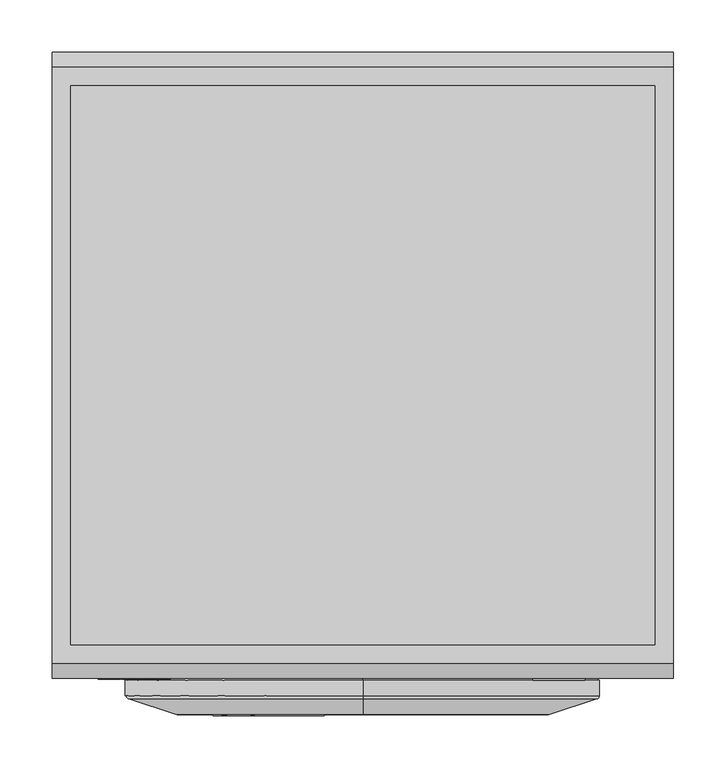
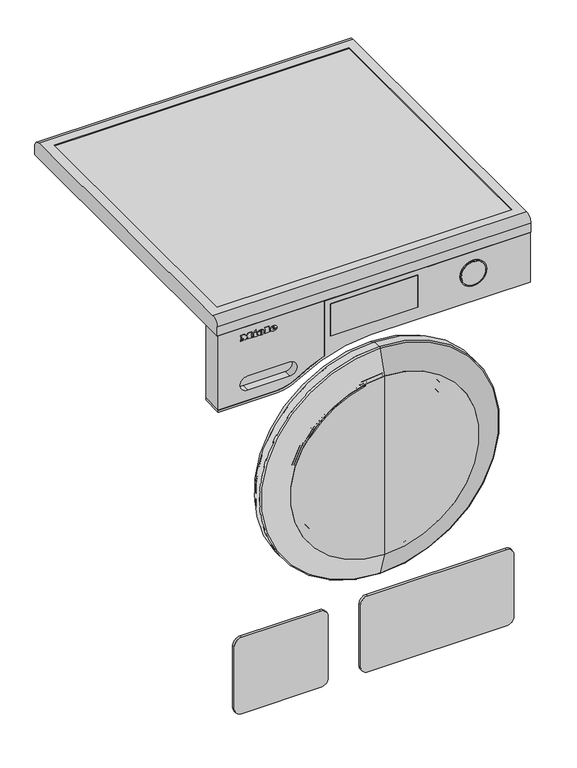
"""IFC4 building model written with IfcOpenShell, lengths in millimetres: proxy geometry, 11297810_ROK_WCR860WPS_LW : 11CR8600_ROK_11297810_WCR860WPS_LW."""

from ifc_helpers import new_model, si_unit, point, frame, frame_2d, origin, place, context, project, spatial, polyline, circle_curve, ellipse_curve, trimmed, segment, composite_curve, outline, extrude, source, transform, mapped, element, save
from ifc_brep_helpers import plane_surface, cylinder_surface, revolved_surface, extruded_surface, advanced_brep


def specialty_equipment_65e13c43(model_context):
    return source(origin(), model_context, "Body", "SolidModel", [
        advanced_brep(
        [(-192.212, -601.0, 794.7018), (-192.212, -601.0, 795.8532), (-184.5854, -601.0, 795.8532), (-197.855, -601.0, 795.8532), (-194.72, -601.0, 792.0), (-184.7792, -601.0, 794.7018), (-188.222, -601.0, 794.7018), (-190.9352, -601.0, 793.425), (-192.212, -601.0, 797.3124), (-192.212, -601.0, 798.555), (-190.2626, -601.0, 798.555), (-190.2626, -601.0, 797.3124), (-192.212, -600.0, 794.7018), (-190.9352, -600.0, 793.425), (-188.222, -600.0, 794.7018), (-184.7792, -600.0, 794.7018), (-194.72, -600.0, 792.0), (-197.855, -600.0, 795.8532), (-184.5854, -600.0, 795.8532), (-192.212, -600.0, 795.8532), (-192.212, -600.0, 797.3124), (-190.2626, -600.0, 797.3124), (-190.2626, -600.0, 798.555), (-192.212, -600.0, 798.555)],
        [
            (0, 1),
            (1, 2),
            (2, 3, ellipse_curve(frame((-191.2202, -601.0, 795.8532), z_axis=(0.0, -1.0, 0.0), x_axis=(-1.0, 0.0, 0.0)), 6.6348, 5.4834)),
            (3, 4, circle_curve(frame((-193.4431378, -601.0, 796.2408), z_axis=(0.0, -1.0, 0.0), x_axis=(0.0, 0.0, -1.0)), 4.4288556)),
            (4, 5, circle_curve(frame((-191.3530192, -601.0, 799.2504), z_axis=(0.0, -1.0, 0.0), x_axis=(0.0, 0.0, -1.0)), 7.9940516)),
            (5, 6),
            (6, 7, circle_curve(frame((-190.3779412, -601.0, 795.762), z_axis=(0.0, 1.0, 0.0), x_axis=(0.0, 0.0, -1.0)), 2.4025208)),
            (7, 0, circle_curve(frame((-190.9352, -601.0, 794.7018), z_axis=(0.0, 1.0, 0.0), x_axis=(0.0, 0.0, -1.0)), 1.2768)),
            (8, 9),
            (9, 10, circle_curve(frame((-191.2373, -601.0, 798.555), z_axis=(0.0, 1.0, 0.0), x_axis=(0.0, 0.0, -1.0)), 0.9747)),
            (10, 11),
            (11, 8),
            (12, 13, circle_curve(frame((-190.9352, -600.0, 794.7018), z_axis=(0.0, -1.0, 0.0), x_axis=(0.0, 0.0, -1.0)), 1.2768)),
            (13, 14, circle_curve(frame((-190.3779412, -600.0, 795.762), z_axis=(0.0, -1.0, 0.0), x_axis=(0.0, 0.0, -1.0)), 2.4025208)),
            (14, 15),
            (15, 16, circle_curve(frame((-191.3530192, -600.0, 799.2504), z_axis=(0.0, 1.0, 0.0), x_axis=(0.0, 0.0, -1.0)), 7.9940516)),
            (16, 17, circle_curve(frame((-193.4431378, -600.0, 796.2408), z_axis=(0.0, 1.0, 0.0), x_axis=(0.0, 0.0, -1.0)), 4.4288556)),
            (17, 18, ellipse_curve(frame((-191.2202, -600.0, 795.8532), z_axis=(0.0, 1.0, 0.0), x_axis=(-1.0, 0.0, 0.0)), 6.6348, 5.4834)),
            (18, 19),
            (19, 12),
            (20, 21),
            (21, 22),
            (22, 23, circle_curve(frame((-191.2373, -600.0, 798.555), z_axis=(0.0, -1.0, 0.0), x_axis=(0.0, 0.0, -1.0)), 0.9747)),
            (23, 20),
            (0, 12),
            (19, 1),
            (18, 2),
            (5, 15),
            (14, 6),
            (17, 3),
            (13, 7),
            (16, 4),
            (8, 20),
            (23, 9),
            (22, 10),
            (21, 11),
        ],
        [
            plane_surface(frame((-192.212, -601.0, 795.8532), z_axis=(0.0, -1.0, 0.0), x_axis=(0.0, 0.0, 1.0))),
            plane_surface(frame((-192.212, -600.0, 795.8532), z_axis=(0.0, 1.0, 0.0), x_axis=(0.0, 0.0, -1.0))),
            plane_surface(frame((-192.212, -601.0, 794.7018), z_axis=(1.0, 0.0, 0.0), x_axis=(0.0, 1.0, 0.0))),
            plane_surface(frame((-192.212, -601.0, 795.8532), z_axis=(0.0, 0.0, -1.0), x_axis=(0.0, 1.0, 0.0))),
            plane_surface(frame((-184.7792, -601.0, 794.7018), z_axis=(0.0, 0.0, 1.0), x_axis=(0.0, 1.0, 0.0))),
            extruded_surface(trimmed(ellipse_curve(frame((-191.2202, -599.0, 795.8532), z_axis=(0.0, -1.0, 0.0), x_axis=(-1.0, 0.0, 0.0)), 6.6348, 5.4834), [point((-184.5854, -599.0, 795.8532))], [point((-197.855, -599.0, 795.8532))], True, "CARTESIAN"), (0.0, -1.0, 0.0), 1.0),
            revolved_surface(polyline([(-190.3779412, -600.0, 793.3594791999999), (-190.3779412, -601.0, 793.3594791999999)]), (-190.3779412, -600.0, 795.762), (0.0, 1.0, 0.0)),
            revolved_surface(polyline([(-190.9352, -600.0, 793.4250000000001), (-190.9352, -601.0, 793.4250000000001)]), (-190.9352, -600.0, 794.7018), (0.0, 1.0, 0.0)),
            cylinder_surface(frame((-193.4431378, -600.0, 796.2408), z_axis=(0.0, -1.0, 0.0), x_axis=(0.0, 0.0, -1.0)), 4.4288556),
            cylinder_surface(frame((-191.3530192, -600.0, 799.2504), z_axis=(0.0, -1.0, 0.0), x_axis=(0.0, 0.0, -1.0)), 7.9940516),
            plane_surface(frame((-192.212, -601.0, 797.3124), z_axis=(1.0, 0.0, 0.0), x_axis=(0.0, 1.0, 0.0))),
            revolved_surface(polyline([(-191.2373, -600.0, 797.5803), (-191.2373, -601.0, 797.5803)]), (-191.2373, -600.0, 798.555), (0.0, 1.0, 0.0)),
            plane_surface(frame((-190.2626, -601.0, 798.555), z_axis=(-1.0, 0.0, 0.0), x_axis=(0.0, 1.0, 0.0))),
            plane_surface(frame((-190.2626, -601.0, 797.3124), z_axis=(0.0, 0.0, 1.0), x_axis=(0.0, 1.0, 0.0))),
        ],
        [
            (0, [[1, 2, 3, 4, 5, 6, 7, 8], [9, 10, 11, 12]]),
            (1, [[13, 14, 15, 16, 17, 18, 19, 20], [21, 22, 23, 24]]),
            (2, [[-1, 25, -20, 26]]),
            (3, [[-2, -26, -19, 27]]),
            (4, [[-6, 28, -15, 29]]),
            (5, [[-3, -27, -18, 30]]),
            (6, [[-7, -29, -14, 31]]),
            (7, [[-8, -31, -13, -25]]),
            (8, [[-4, -30, -17, 32]]),
            (9, [[-5, -32, -16, -28]]),
            (10, [[-9, 33, -24, 34]]),
            (11, [[-10, -34, -23, 35]]),
            (12, [[-11, -35, -22, 36]]),
            (13, [[-12, -36, -21, -33]]),
        ],
    ),
        advanced_brep(
        [(-216.0038, -601.0, 794.7018), (-216.0038, -601.0, 795.8532), (-208.3772, -601.0, 795.8532), (-221.6468, -601.0, 795.8532), (-218.5118, -601.0, 792.0), (-208.571, -601.0, 794.7018), (-212.0138, -601.0, 794.7018), (-214.727, -601.0, 793.425), (-216.0038, -601.0, 797.3124), (-216.0038, -601.0, 798.555), (-214.0544, -601.0, 798.555), (-214.0544, -601.0, 797.3124), (-216.0038, -600.0, 794.7018), (-214.727, -600.0, 793.425), (-212.0138, -600.0, 794.7018), (-208.571, -600.0, 794.7018), (-218.5118, -600.0, 792.0), (-221.6468, -600.0, 795.8532), (-208.3772, -600.0, 795.8532), (-216.0038, -600.0, 795.8532), (-216.0038, -600.0, 797.3124), (-214.0544, -600.0, 797.3124), (-214.0544, -600.0, 798.555), (-216.0038, -600.0, 798.555)],
        [
            (0, 1),
            (1, 2),
            (2, 3, ellipse_curve(frame((-215.012, -601.0, 795.8532), z_axis=(0.0, -1.0, 0.0), x_axis=(-1.0, 0.0, 0.0)), 6.6348, 5.4834)),
            (3, 4, circle_curve(frame((-217.2349378, -601.0, 796.2408), z_axis=(0.0, -1.0, 0.0), x_axis=(0.0, 0.0, -1.0)), 4.4288556)),
            (4, 5, circle_curve(frame((-215.1448192, -601.0, 799.2504), z_axis=(0.0, -1.0, 0.0), x_axis=(0.0, 0.0, -1.0)), 7.9940516)),
            (5, 6),
            (6, 7, circle_curve(frame((-214.1697412, -601.0, 795.762), z_axis=(0.0, 1.0, 0.0), x_axis=(0.0, 0.0, -1.0)), 2.4025208)),
            (7, 0, circle_curve(frame((-214.727, -601.0, 794.7018), z_axis=(0.0, 1.0, 0.0), x_axis=(0.0, 0.0, -1.0)), 1.2768)),
            (8, 9),
            (9, 10, circle_curve(frame((-215.0291, -601.0, 798.555), z_axis=(0.0, 1.0, 0.0), x_axis=(0.0, 0.0, -1.0)), 0.9747)),
            (10, 11),
            (11, 8),
            (12, 13, circle_curve(frame((-214.727, -600.0, 794.7018), z_axis=(0.0, -1.0, 0.0), x_axis=(0.0, 0.0, -1.0)), 1.2768)),
            (13, 14, circle_curve(frame((-214.1697412, -600.0, 795.762), z_axis=(0.0, -1.0, 0.0), x_axis=(0.0, 0.0, -1.0)), 2.4025208)),
            (14, 15),
            (15, 16, circle_curve(frame((-215.1448192, -600.0, 799.2504), z_axis=(0.0, 1.0, 0.0), x_axis=(0.0, 0.0, -1.0)), 7.9940516)),
            (16, 17, circle_curve(frame((-217.2349378, -600.0, 796.2408), z_axis=(0.0, 1.0, 0.0), x_axis=(0.0, 0.0, -1.0)), 4.4288556)),
            (17, 18, ellipse_curve(frame((-215.012, -600.0, 795.8532), z_axis=(0.0, 1.0, 0.0), x_axis=(-1.0, 0.0, 0.0)), 6.6348, 5.4834)),
            (18, 19),
            (19, 12),
            (20, 21),
            (21, 22),
            (22, 23, circle_curve(frame((-215.0291, -600.0, 798.555), z_axis=(0.0, -1.0, 0.0), x_axis=(0.0, 0.0, -1.0)), 0.9747)),
            (23, 20),
            (0, 12),
            (19, 1),
            (18, 2),
            (5, 15),
            (14, 6),
            (17, 3),
            (13, 7),
            (16, 4),
            (8, 20),
            (23, 9),
            (22, 10),
            (21, 11),
        ],
        [
            plane_surface(frame((-216.0038, -601.0, 795.8532), z_axis=(0.0, -1.0, 0.0), x_axis=(0.0, 0.0, 1.0))),
            plane_surface(frame((-216.0038, -600.0, 795.8532), z_axis=(0.0, 1.0, 0.0), x_axis=(0.0, 0.0, -1.0))),
            plane_surface(frame((-216.0038, -601.0, 794.7018), z_axis=(1.0, 0.0, 0.0), x_axis=(0.0, 1.0, 0.0))),
            plane_surface(frame((-216.0038, -601.0, 795.8532), z_axis=(0.0, 0.0, -1.0), x_axis=(0.0, 1.0, 0.0))),
            plane_surface(frame((-208.571, -601.0, 794.7018), z_axis=(0.0, 0.0, 1.0), x_axis=(0.0, 1.0, 0.0))),
            extruded_surface(trimmed(ellipse_curve(frame((-215.012, -599.0, 795.8532), z_axis=(0.0, -1.0, 0.0), x_axis=(-1.0, 0.0, 0.0)), 6.6348, 5.4834), [point((-208.3772, -599.0, 795.8532))], [point((-221.6468, -599.0, 795.8532))], True, "CARTESIAN"), (0.0, -1.0, 0.0), 1.0),
            revolved_surface(polyline([(-214.1697412, -600.0, 793.3594791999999), (-214.1697412, -601.0, 793.3594791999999)]), (-214.1697412, -600.0, 795.762), (0.0, 1.0, 0.0)),
            revolved_surface(polyline([(-214.727, -600.0, 793.4250000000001), (-214.727, -601.0, 793.4250000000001)]), (-214.727, -600.0, 794.7018), (0.0, 1.0, 0.0)),
            cylinder_surface(frame((-217.2349378, -600.0, 796.2408), z_axis=(0.0, -1.0, 0.0), x_axis=(0.0, 0.0, -1.0)), 4.4288556),
            cylinder_surface(frame((-215.1448192, -600.0, 799.2504), z_axis=(0.0, -1.0, 0.0), x_axis=(0.0, 0.0, -1.0)), 7.9940516),
            plane_surface(frame((-216.0038, -601.0, 797.3124), z_axis=(1.0, 0.0, 0.0), x_axis=(0.0, 1.0, 0.0))),
            revolved_surface(polyline([(-215.0291, -600.0, 797.5803), (-215.0291, -601.0, 797.5803)]), (-215.0291, -600.0, 798.555), (0.0, 1.0, 0.0)),
            plane_surface(frame((-214.0544, -601.0, 798.555), z_axis=(-1.0, 0.0, 0.0), x_axis=(0.0, 1.0, 0.0))),
            plane_surface(frame((-214.0544, -601.0, 797.3124), z_axis=(0.0, 0.0, 1.0), x_axis=(0.0, 1.0, 0.0))),
        ],
        [
            (0, [[1, 2, 3, 4, 5, 6, 7, 8], [9, 10, 11, 12]]),
            (1, [[13, 14, 15, 16, 17, 18, 19, 20], [21, 22, 23, 24]]),
            (2, [[-1, 25, -20, 26]]),
            (3, [[-2, -26, -19, 27]]),
            (4, [[-6, 28, -15, 29]]),
            (5, [[-3, -27, -18, 30]]),
            (6, [[-7, -29, -14, 31]]),
            (7, [[-8, -31, -13, -25]]),
            (8, [[-4, -30, -17, 32]]),
            (9, [[-5, -32, -16, -28]]),
            (10, [[-9, 33, -24, 34]]),
            (11, [[-10, -34, -23, 35]]),
            (12, [[-11, -35, -22, 36]]),
            (13, [[-12, -36, -21, -33]]),
        ],
    ),
        extrude(outline(polyline([(802.7274, -228.464), (800.8806, -227.5976), (802.6818, -223.733), (804.5286, -224.588), (802.7274, -228.464)])), frame((0.0, -601.0, 0.0), z_axis=(0.0, 1.0, 0.0), x_axis=(0.0, 0.0, 1.0)), (0.0, 0.0, 1.0), 1.0),
        extrude(outline(polyline([(800.6298, -231.2798), (798.5892, -231.2798), (798.5892, -229.9232), (793.9152, -229.9232), (793.9152, -231.2798), (792.0, -231.2798), (792.0, -222.2852), (793.9152, -222.2852), (793.9152, -223.6076), (800.6298, -223.6076), (800.6298, -231.2798)])), frame((0.0, -601.0, 0.0), z_axis=(0.0, 1.0, 0.0), x_axis=(0.0, 0.0, 1.0)), (0.0, 0.0, 1.0), 1.0),
        extrude(outline(polyline([(801.5418, -207.7388), (801.5418, -206.3708), (793.9152, -206.3708), (793.9152, -207.7388), (792.0, -207.7388), (792.0, -198.4934), (793.9152, -198.4934), (793.9152, -199.8956), (803.4, -199.8956), (803.4, -207.7388), (801.5418, -207.7388)])), frame((0.0, -601.0, 0.0), z_axis=(0.0, 1.0, 0.0), x_axis=(0.0, 0.0, 1.0)), (0.0, 0.0, 1.0), 1.0),
        extrude(outline(polyline([(801.5418, -254.0), (801.5418, -252.6206), (793.9152, -252.6206), (793.9152, -254.0), (792.0, -254.0), (792.0, -248.984), (793.9152, -248.984), (793.9152, -250.352), (798.7429247, -250.352), (792.0, -245.2562), (798.9402223, -240.1376), (793.9152, -240.1376), (793.9152, -241.5398), (792.0, -241.5398), (792.0, -232.4426), (793.9152, -232.4426), (793.9152, -233.8904), (801.5418, -233.8904), (801.5418, -232.4426), (803.4, -232.4426), (803.4, -239.3852), (799.125, -242.714), (803.4, -246.0542), (803.4, -254.0), (801.5418, -254.0)])), frame((0.0, -601.0, 0.0), z_axis=(0.0, 1.0, 0.0), x_axis=(0.0, 0.0, 1.0)), (0.0, 0.0, 1.0), 1.0),
        extrude(outline(composite_curve([segment(trimmed(circle_curve(frame_2d((475.0, 0.0)), 179.0077488), [point((650.0572384, -37.3996979))], [point((581.8669772, -143.6078804))], False, "CARTESIAN"), True, "CONTINUOUS"), segment(polyline([(581.8669772, -143.6078804), (580.6729844, -142.0033925)]), True, "CONTINUOUS"), segment(trimmed(circle_curve(frame_2d((475.0, 0.0)), 177.0077488), [point((580.6729844, -142.0033925))], [point((648.1013763, -36.9818423))], True, "CARTESIAN"), True, "CONTINUOUS"), segment(polyline([(648.1013763, -36.9818423), (650.0572384, -37.3996979)]), True, "CONTINUOUS")], self_intersect=False)), frame((0.0, -636.0, 0.0), z_axis=(0.0, 1.0, 0.0), x_axis=(0.0, 0.0, 1.0)), (0.0, 0.0, 1.0), 1.0),
        advanced_brep(
        [(0.0, -610.8709778, 313.0), (0.0, -610.8709778, 637.0), (0.0, -592.0, 637.0), (0.0, -592.0, 313.0), (0.0, -628.93239, 652.7005461), (0.0, -628.93239, 297.2994539), (0.0, -630.9005671, 650.4364173), (0.0, -630.9005671, 299.5635827), (0.0, -592.0, 326.0), (0.0, -592.0, 624.0), (0.0, -589.0, 326.0), (0.0, -589.0, 624.0), (0.0, -589.0, 475.0), (0.0, -635.0, 296.0), (0.0, -635.0, 654.0), (0.0, -635.0, 475.0)],
        [
            (0, 1, circle_curve(frame((0.0, -610.8709778, 475.0), z_axis=(0.0, 1.0, 0.0), x_axis=(0.0, 0.0, 1.0)), 162.0)),
            (1, 2),
            (2, 3, circle_curve(frame((0.0, -592.0, 475.0), z_axis=(0.0, -1.0, 0.0), x_axis=(0.0, 0.0, 1.0)), 162.0)),
            (3, 0),
            (4, 5, circle_curve(frame((0.0, -628.93239, 475.0), z_axis=(0.0, 1.0, 0.0), x_axis=(0.0, 0.0, 1.0)), 177.7005461)),
            (5, 0),
            (0, 1, circle_curve(frame((0.0, -610.8709778, 475.0), z_axis=(0.0, -1.0, 0.0), x_axis=(0.0, 0.0, 1.0)), 162.0)),
            (1, 4),
            (6, 7, circle_curve(frame((0.0, -630.9005671, 475.0), z_axis=(0.0, 1.0, 0.0), x_axis=(0.0, 0.0, 1.0)), 175.4364173)),
            (7, 5),
            (4, 6),
            (2, 3, circle_curve(frame((0.0, -592.0, 475.0), z_axis=(0.0, 1.0, 0.0), x_axis=(0.0, 0.0, 1.0)), 162.0)),
            (3, 8),
            (8, 9, circle_curve(frame((0.0, -592.0, 475.0), z_axis=(0.0, -1.0, 0.0), x_axis=(0.0, 0.0, 1.0)), 149.0)),
            (9, 2),
            (10, 11, circle_curve(frame((0.0, -589.0, 475.0), z_axis=(0.0, 1.0, 0.0), x_axis=(0.0, 0.0, 1.0)), 149.0)),
            (11, 12),
            (12, 10),
            (8, 9, circle_curve(frame((0.0, -592.0, 475.0), z_axis=(0.0, 1.0, 0.0), x_axis=(0.0, 0.0, 1.0)), 149.0)),
            (9, 11),
            (10, 8),
            (13, 14, circle_curve(frame((0.0, -635.0, 475.0), z_axis=(0.0, 1.0, 0.0), x_axis=(0.0, 0.0, 1.0)), 179.0)),
            (14, 6),
            (6, 7, circle_curve(frame((0.0, -630.9005671, 475.0), z_axis=(0.0, -1.0, 0.0), x_axis=(0.0, 0.0, 1.0)), 175.4364173)),
            (7, 13),
            (14, 13, circle_curve(frame((0.0, -635.0, 475.0), z_axis=(0.0, 1.0, 0.0), x_axis=(0.0, 0.0, 1.0)), 179.0)),
            (15, 14),
            (13, 15),
            (11, 10, circle_curve(frame((0.0, -589.0, 475.0), z_axis=(0.0, 1.0, 0.0), x_axis=(0.0, 0.0, 1.0)), 149.0)),
            (5, 4, circle_curve(frame((0.0, -628.93239, 475.0), z_axis=(0.0, 1.0, 0.0), x_axis=(0.0, 0.0, 1.0)), 177.7005461)),
        ],
        [
            cylinder_surface(frame((0.0, -2342.7556811, 475.0), z_axis=(0.0, -1.0, 0.0), x_axis=(0.0, 0.0, 1.0)), 162.0),
            revolved_surface(polyline([(0.0, -610.8709778, 637.0), (0.0, -628.93239, 652.7005461)]), (0.0, -2342.7556811, 475.0), (0.0, -1.0, 0.0)),
            revolved_surface(polyline([(0.0, -628.93239, 652.7005461), (0.0, -630.9005671, 650.4364173)]), (0.0, -2342.7556811, 475.0), (0.0, -1.0, 0.0)),
            plane_surface(frame((0.0, -592.0, 475.0), z_axis=(0.0, 1.0, 0.0), x_axis=(0.0, 0.0, 1.0))),
            plane_surface(frame((0.0, -589.0, 475.0), z_axis=(0.0, 1.0, 0.0), x_axis=(0.0, 0.0, 1.0))),
            cylinder_surface(frame((0.0, -2342.7556811, 475.0), z_axis=(0.0, -1.0, 0.0), x_axis=(0.0, 0.0, 1.0)), 149.0),
            revolved_surface(polyline([(0.0, -630.9005671, 650.4364173), (0.0, -635.0, 654.0)]), (0.0, -2342.7556811, 475.0), (0.0, -1.0, 0.0)),
            plane_surface(frame((0.0, -635.0, 475.0), z_axis=(0.0, -1.0, 0.0), x_axis=(0.0, 0.0, 1.0))),
        ],
        [
            (0, [[1, 2, 3, 4]]),
            (1, [[5, 6, 7, 8]]),
            (2, [[9, 10, -5, 11]]),
            (3, [[12, 13, 14, 15]]),
            (4, [[16, 17, 18]]),
            (5, [[19, 20, -16, 21]]),
            (6, [[22, 23, 24, 25]]),
            (6, [[26, -25, -9, -23]]),
            (7, [[27, -22, 28]]),
            (7, [[-28, -26, -27]]),
            (4, [[29, -18, -17]]),
            (5, [[-14, -21, -29, -20]]),
            (3, [[-3, -15, -19, -13]]),
            (0, [[-7, -4, -12, -2]]),
            (1, [[30, -8, -1, -6]]),
            (2, [[-24, -11, -30, -10]]),
        ],
    ),
        advanced_brep(
        [(0.0, -602.0, 313.0), (0.0, -602.0, 637.0), (0.0, -602.0, 702.0), (0.0, -602.0, 248.0), (0.0, -592.0, 326.0), (0.0, -592.0, 624.0), (0.0, -592.0, 637.0), (0.0, -592.0, 313.0), (0.0, -589.0, 326.0), (0.0, -589.0, 624.0), (0.0, -589.0, 254.0), (0.0, -589.0, 696.0)],
        [
            (0, 1, circle_curve(frame((0.0, -602.0, 475.0), z_axis=(0.0, 1.0, 0.0), x_axis=(0.0, 0.0, 1.0)), 162.0)),
            (1, 2),
            (2, 3, circle_curve(frame((0.0, -602.0, 475.0), z_axis=(0.0, -1.0, 0.0), x_axis=(0.0, 0.0, 1.0)), 227.0)),
            (3, 0),
            (4, 5, circle_curve(frame((0.0, -592.0, 475.0), z_axis=(0.0, 1.0, 0.0), x_axis=(0.0, 0.0, 1.0)), 149.0)),
            (5, 6),
            (6, 7, circle_curve(frame((0.0, -592.0, 475.0), z_axis=(0.0, -1.0, 0.0), x_axis=(0.0, 0.0, 1.0)), 162.0)),
            (7, 4),
            (5, 4, circle_curve(frame((0.0, -592.0, 475.0), z_axis=(0.0, 1.0, 0.0), x_axis=(0.0, 0.0, 1.0)), 149.0)),
            (7, 6, circle_curve(frame((0.0, -592.0, 475.0), z_axis=(0.0, -1.0, 0.0), x_axis=(0.0, 0.0, 1.0)), 162.0)),
            (8, 9, circle_curve(frame((0.0, -589.0, 475.0), z_axis=(0.0, 1.0, 0.0), x_axis=(0.0, 0.0, 1.0)), 149.0)),
            (9, 5),
            (4, 8),
            (2, 3, circle_curve(frame((0.0, -602.0, 475.0), z_axis=(0.0, 1.0, 0.0), x_axis=(0.0, 0.0, 1.0)), 227.0)),
            (3, 10),
            (10, 11, circle_curve(frame((0.0, -589.0, 475.0), z_axis=(0.0, -1.0, 0.0), x_axis=(0.0, 0.0, 1.0)), 221.0)),
            (11, 2),
            (10, 11, circle_curve(frame((0.0, -589.0, 475.0), z_axis=(0.0, 1.0, 0.0), x_axis=(0.0, 0.0, 1.0)), 221.0)),
            (11, 9),
            (8, 10),
            (8, 9, circle_curve(frame((0.0, -589.0, 475.0), z_axis=(0.0, -1.0, 0.0), x_axis=(0.0, 0.0, 1.0)), 149.0)),
            (1, 0, circle_curve(frame((0.0, -602.0, 475.0), z_axis=(0.0, 1.0, 0.0), x_axis=(0.0, 0.0, 1.0)), 162.0)),
            (6, 1),
            (0, 7),
        ],
        [
            plane_surface(frame((0.0, -602.0, 475.0), z_axis=(0.0, -1.0, 0.0), x_axis=(0.0, 0.0, 1.0))),
            plane_surface(frame((0.0, -592.0, 475.0), z_axis=(0.0, -1.0, 0.0), x_axis=(0.0, 0.0, 1.0))),
            revolved_surface(polyline([(0.0, -592.0, 624.0), (0.0, -589.0, 624.0)]), (0.0, -2342.7556811, 475.0), (0.0, -1.0, 0.0)),
            revolved_surface(polyline([(0.0, -589.0, 696.0), (0.0, -602.0, 702.0)]), (0.0, -2342.7556811, 475.0), (0.0, -1.0, 0.0)),
            plane_surface(frame((0.0, -589.0, 475.0), z_axis=(0.0, 1.0, 0.0), x_axis=(0.0, 0.0, 1.0))),
            revolved_surface(polyline([(0.0, -602.0, 637.0), (0.0, -592.0, 637.0)]), (0.0, -2342.7556811, 475.0), (0.0, -1.0, 0.0)),
        ],
        [
            (0, [[1, 2, 3, 4]]),
            (1, [[5, 6, 7, 8]]),
            (1, [[9, -8, 10, -6]]),
            (2, [[11, 12, -5, 13]]),
            (3, [[14, 15, 16, 17]]),
            (4, [[18, 19, -11, 20]]),
            (4, [[-16, -20, 21, -19]]),
            (3, [[-3, -17, -18, -15]]),
            (0, [[22, -4, -14, -2]]),
            (5, [[-7, 23, -1, 24]]),
            (5, [[-10, -24, -22, -23]]),
            (2, [[-21, -13, -9, -12]]),
        ],
    ),
        advanced_brep(
        [(0.0, -602.0, 313.0), (0.0, -602.0, 637.0), (0.0, -610.8709778, 637.0), (0.0, -610.8709778, 313.0), (0.0, -602.0, 310.0), (0.0, -602.0, 640.0), (0.0, -609.7493238, 310.0), (0.0, -609.7493238, 640.0), (0.0, -628.93239, 297.2994539), (0.0, -628.93239, 652.7005461), (0.0, -626.9642129, 654.9646748), (0.0, -626.9642129, 295.0353252)],
        [
            (0, 1, circle_curve(frame((0.0, -602.0, 475.0), z_axis=(0.0, 1.0, 0.0), x_axis=(0.0, 0.0, 1.0)), 162.0)),
            (1, 2),
            (2, 3, circle_curve(frame((0.0, -610.8709778, 475.0), z_axis=(0.0, -1.0, 0.0), x_axis=(0.0, 0.0, 1.0)), 162.0)),
            (3, 0),
            (4, 5, circle_curve(frame((0.0, -602.0, 475.0), z_axis=(0.0, 1.0, 0.0), x_axis=(0.0, 0.0, 1.0)), 165.0)),
            (5, 1),
            (0, 4),
            (6, 7, circle_curve(frame((0.0, -609.7493238, 475.0), z_axis=(0.0, 1.0, 0.0), x_axis=(0.0, 0.0, 1.0)), 165.0)),
            (7, 5),
            (4, 6),
            (2, 3, circle_curve(frame((0.0, -610.8709778, 475.0), z_axis=(0.0, 1.0, 0.0), x_axis=(0.0, 0.0, 1.0)), 162.0)),
            (3, 8),
            (8, 9, circle_curve(frame((0.0, -628.93239, 475.0), z_axis=(0.0, -1.0, 0.0), x_axis=(0.0, 0.0, 1.0)), 177.7005461)),
            (9, 2),
            (8, 9, circle_curve(frame((0.0, -628.93239, 475.0), z_axis=(0.0, 1.0, 0.0), x_axis=(0.0, 0.0, 1.0)), 177.7005461)),
            (9, 10),
            (10, 11, circle_curve(frame((0.0, -626.9642129, 475.0), z_axis=(0.0, -1.0, 0.0), x_axis=(0.0, 0.0, 1.0)), 179.9646748)),
            (11, 8),
            (11, 10, circle_curve(frame((0.0, -626.9642129, 475.0), z_axis=(0.0, -1.0, 0.0), x_axis=(0.0, 0.0, 1.0)), 179.9646748)),
            (1, 0, circle_curve(frame((0.0, -602.0, 475.0), z_axis=(0.0, 1.0, 0.0), x_axis=(0.0, 0.0, 1.0)), 162.0)),
            (10, 7),
            (6, 11),
            (6, 7, circle_curve(frame((0.0, -609.7493238, 475.0), z_axis=(0.0, -1.0, 0.0), x_axis=(0.0, 0.0, 1.0)), 165.0)),
            (5, 4, circle_curve(frame((0.0, -602.0, 475.0), z_axis=(0.0, 1.0, 0.0), x_axis=(0.0, 0.0, 1.0)), 165.0)),
        ],
        [
            revolved_surface(polyline([(0.0, -610.8709778, 637.0), (0.0, -602.0, 637.0)]), (0.0, -2342.7556811, 475.0), (0.0, -1.0, 0.0)),
            plane_surface(frame((0.0, -602.0, 475.0), z_axis=(0.0, 1.0, 0.0), x_axis=(0.0, 0.0, 1.0))),
            cylinder_surface(frame((0.0, -2342.7556811, 475.0), z_axis=(0.0, -1.0, 0.0), x_axis=(0.0, 0.0, 1.0)), 165.0),
            revolved_surface(polyline([(0.0, -628.93239, 652.7005461), (0.0, -610.8709778, 637.0)]), (0.0, -2342.7556811, 475.0), (0.0, -1.0, 0.0)),
            revolved_surface(polyline([(0.0, -626.9642129, 654.9646748), (0.0, -628.93239, 652.7005461)]), (0.0, -2342.7556811, 475.0), (0.0, -1.0, 0.0)),
            revolved_surface(polyline([(0.0, -609.7493238, 640.0), (0.0, -626.9642129, 654.9646748)]), (0.0, -2342.7556811, 475.0), (0.0, -1.0, 0.0)),
        ],
        [
            (0, [[1, 2, 3, 4]]),
            (1, [[5, 6, -1, 7]]),
            (2, [[8, 9, -5, 10]]),
            (3, [[11, 12, 13, 14]]),
            (4, [[15, 16, 17, 18]]),
            (4, [[-13, -18, 19, -16]]),
            (3, [[-3, -14, -15, -12]]),
            (0, [[20, -4, -11, -2]]),
            (5, [[-17, 21, -8, 22]]),
            (5, [[-19, -22, 23, -21]]),
            (1, [[24, -7, -20, -6]]),
            (2, [[-23, -10, -24, -9]]),
        ],
    ),
        advanced_brep(
        [(0.0, -626.9642129, 295.0353252), (0.0, -626.9642129, 654.9646748), (0.0, -630.9005671, 650.4364173), (0.0, -630.9005671, 299.5635827), (0.0, -602.0, 247.0), (0.0, -602.0, 703.0), (0.0, -602.0, 640.0), (0.0, -602.0, 310.0), (0.0, -609.7493238, 640.0), (0.0, -609.7493238, 310.0), (0.0, -635.0, 296.0), (0.0, -635.0, 654.0), (0.0, -616.8993073, 247.0), (0.0, -616.8993073, 703.0), (0.0, -619.7524768, 249.072949), (0.0, -619.7524768, 700.927051)],
        [
            (0, 1, circle_curve(frame((0.0, -626.9642129, 475.0), z_axis=(0.0, 1.0, 0.0), x_axis=(0.0, 0.0, 1.0)), 179.9646748)),
            (1, 2),
            (2, 3, circle_curve(frame((0.0, -630.9005671, 475.0), z_axis=(0.0, -1.0, 0.0), x_axis=(0.0, 0.0, 1.0)), 175.4364173)),
            (3, 0),
            (4, 5, circle_curve(frame((0.0, -602.0, 475.0), z_axis=(0.0, 1.0, 0.0), x_axis=(0.0, 0.0, 1.0)), 228.0)),
            (5, 6),
            (6, 7, circle_curve(frame((0.0, -602.0, 475.0), z_axis=(0.0, -1.0, 0.0), x_axis=(0.0, 0.0, 1.0)), 165.0)),
            (7, 4),
            (6, 8),
            (8, 9, circle_curve(frame((0.0, -609.7493238, 475.0), z_axis=(0.0, -1.0, 0.0), x_axis=(0.0, 0.0, 1.0)), 165.0)),
            (9, 7),
            (2, 3, circle_curve(frame((0.0, -630.9005671, 475.0), z_axis=(0.0, 1.0, 0.0), x_axis=(0.0, 0.0, 1.0)), 175.4364173)),
            (3, 10),
            (10, 11, circle_curve(frame((0.0, -635.0, 475.0), z_axis=(0.0, -1.0, 0.0), x_axis=(0.0, 0.0, 1.0)), 179.0)),
            (11, 2),
            (12, 13, circle_curve(frame((0.0, -616.8993073, 475.0), z_axis=(0.0, 1.0, 0.0), x_axis=(0.0, 0.0, 1.0)), 228.0)),
            (13, 5),
            (4, 12),
            (13, 12, circle_curve(frame((0.0, -616.8993073, 475.0), z_axis=(0.0, 1.0, 0.0), x_axis=(0.0, 0.0, 1.0)), 228.0)),
            (4, 5, circle_curve(frame((0.0, -602.0, 475.0), z_axis=(0.0, -1.0, 0.0), x_axis=(0.0, 0.0, 1.0)), 228.0)),
            (14, 15, circle_curve(frame((0.0, -619.7524768, 475.0), z_axis=(0.0, 1.0, 0.0), x_axis=(0.0, 0.0, 1.0)), 225.927051)),
            (15, 13, circle_curve(frame((0.0, -616.8993073, 700.0), z_axis=(-1.0, 0.0, 0.0), x_axis=(0.0, 1.0, 0.0)), 3.0)),
            (12, 14, circle_curve(frame((0.0, -616.8993073, 250.0), z_axis=(-1.0, 0.0, 0.0), x_axis=(0.0, 1.0, 0.0)), 3.0)),
            (15, 14, circle_curve(frame((0.0, -619.7524768, 475.0), z_axis=(0.0, 1.0, 0.0), x_axis=(0.0, 0.0, 1.0)), 225.927051)),
            (10, 11, circle_curve(frame((0.0, -635.0, 475.0), z_axis=(0.0, 1.0, 0.0), x_axis=(0.0, 0.0, 1.0)), 179.0)),
            (11, 15),
            (14, 10),
            (1, 0, circle_curve(frame((0.0, -626.9642129, 475.0), z_axis=(0.0, 1.0, 0.0), x_axis=(0.0, 0.0, 1.0)), 179.9646748)),
            (8, 1),
            (0, 9),
            (8, 9, circle_curve(frame((0.0, -609.7493238, 475.0), z_axis=(0.0, 1.0, 0.0), x_axis=(0.0, 0.0, 1.0)), 165.0)),
            (7, 6, circle_curve(frame((0.0, -602.0, 475.0), z_axis=(0.0, -1.0, 0.0), x_axis=(0.0, 0.0, 1.0)), 165.0)),
        ],
        [
            revolved_surface(polyline([(0.0, -630.9005671, 650.4364173), (0.0, -626.9642129, 654.9646748)]), (0.0, -2342.7556811, 475.0), (0.0, -1.0, 0.0)),
            plane_surface(frame((0.0, -602.0, 475.0), z_axis=(0.0, 1.0, 0.0), x_axis=(0.0, 0.0, 1.0))),
            revolved_surface(polyline([(0.0, -609.7493238, 640.0), (0.0, -602.0, 640.0)]), (0.0, -2342.7556811, 475.0), (0.0, -1.0, 0.0)),
            revolved_surface(polyline([(0.0, -635.0, 654.0), (0.0, -630.9005671, 650.4364173)]), (0.0, -2342.7556811, 475.0), (0.0, -1.0, 0.0)),
            cylinder_surface(frame((0.0, -2342.7556811, 475.0), z_axis=(0.0, -1.0, 0.0), x_axis=(0.0, 0.0, 1.0)), 228.0),
            revolved_surface(trimmed(ellipse_curve(frame((0.0, -616.8993073, 700.0), z_axis=(1.0, 0.0, 0.0), x_axis=(0.0, 1.0, 0.0)), 3.0, 3.0), [point((0.0, -616.8993073, 703.0))], [point((0.0, -619.7524768, 700.927051))], True, "CARTESIAN"), (0.0, -2342.7556811, 475.0), (0.0, -1.0, 0.0)),
            revolved_surface(polyline([(0.0, -619.7524768, 700.927051), (0.0, -635.0, 654.0)]), (0.0, -2342.7556811, 475.0), (0.0, -1.0, 0.0)),
            revolved_surface(polyline([(0.0, -626.9642129, 654.9646748), (0.0, -609.7493238, 640.0)]), (0.0, -2342.7556811, 475.0), (0.0, -1.0, 0.0)),
        ],
        [
            (0, [[1, 2, 3, 4]]),
            (1, [[5, 6, 7, 8]]),
            (2, [[-7, 9, 10, 11]]),
            (3, [[12, 13, 14, 15]]),
            (4, [[16, 17, -5, 18]]),
            (4, [[19, -18, 20, -17]]),
            (5, [[21, 22, -16, 23]]),
            (5, [[24, -23, -19, -22]]),
            (6, [[25, 26, -21, 27]]),
            (6, [[-14, -27, -24, -26]]),
            (3, [[-3, -15, -25, -13]]),
            (0, [[28, -4, -12, -2]]),
            (7, [[-10, 29, -1, 30]]),
            (7, [[31, -30, -28, -29]]),
            (1, [[-20, -8, 32, -6]]),
            (2, [[-32, -11, -31, -9]]),
        ],
    ),
        extrude(outline(composite_curve([segment(trimmed(circle_curve(frame_2d((775.0, 188.0)), 23.0), [point((775.0, 211.0))], [point((775.0, 165.0))], False, "CARTESIAN"), True, "CONTINUOUS"), segment(trimmed(circle_curve(frame_2d((775.0, 188.0)), 23.0), [point((775.0, 165.0))], [point((775.0, 211.0))], False, "CARTESIAN"), True, "CONTINUOUS")], self_intersect=False)), frame((0.0, -602.0, 0.0), z_axis=(0.0, 1.0, 0.0), x_axis=(0.0, 0.0, 1.0)), (0.0, 0.0, 1.0), 2.0),
        extrude(outline(composite_curve([segment(trimmed(circle_curve(frame_2d((775.0, 188.0)), 25.0), [point((775.0, 213.0))], [point((775.0, 163.0))], False, "CARTESIAN"), True, "CONTINUOUS"), segment(trimmed(circle_curve(frame_2d((775.0, 188.0)), 25.0), [point((775.0, 163.0))], [point((775.0, 213.0))], False, "CARTESIAN"), True, "CONTINUOUS")], self_intersect=False), holes=[composite_curve([segment(trimmed(circle_curve(frame_2d((775.0, 188.0)), 23.0), [point((775.0, 211.0))], [point((775.0, 165.0))], True, "CARTESIAN"), True, "CONTINUOUS"), segment(trimmed(circle_curve(frame_2d((775.0, 188.0)), 23.0), [point((775.0, 165.0))], [point((775.0, 211.0))], True, "CARTESIAN"), True, "CONTINUOUS")], self_intersect=False)]), frame((0.0, -602.0, 0.0), z_axis=(0.0, 1.0, 0.0), x_axis=(0.0, 0.0, 1.0)), (0.0, 0.0, 1.0), 2.0),
        advanced_brep(
        [(298.0, -585.5, 850.0), (298.0, -600.0, 835.5), (298.0, -600.0, 818.0), (298.0, 0.0, 818.0), (298.0, 0.0, 835.5), (298.0, -14.5, 850.0), (-298.0, -585.5, 850.0), (-298.0, -14.5, 850.0), (-298.0, 0.0, 835.5), (-298.0, 0.0, 818.0), (-298.0, -600.0, 818.0), (-298.0, -600.0, 835.5), (-280.0, -32.0, 850.0), (280.0, -32.0, 850.0), (280.0, -568.0, 850.0), (-280.0, -568.0, 850.0), (280.0, -32.0, 848.0), (-280.0, -32.0, 848.0), (-280.0, -568.0, 848.0), (280.0, -568.0, 848.0)],
        [
            (0, 1, circle_curve(frame((298.0, -585.5, 835.5), z_axis=(1.0, 0.0, 0.0), x_axis=(0.0, 0.0, -1.0)), 14.5)),
            (1, 2),
            (2, 3),
            (3, 4),
            (4, 5, circle_curve(frame((298.0, -14.5, 835.5), z_axis=(1.0, 0.0, 0.0), x_axis=(0.0, 0.0, -1.0)), 14.5)),
            (5, 0),
            (6, 7),
            (7, 8, circle_curve(frame((-298.0, -14.5, 835.5), z_axis=(-1.0, 0.0, 0.0), x_axis=(0.0, 0.0, -1.0)), 14.5)),
            (8, 9),
            (9, 10),
            (10, 11),
            (11, 6, circle_curve(frame((-298.0, -585.5, 835.5), z_axis=(-1.0, 0.0, 0.0), x_axis=(0.0, 0.0, -1.0)), 14.5)),
            (5, 7),
            (6, 0),
            (12, 13),
            (13, 14),
            (14, 15),
            (15, 12),
            (4, 8),
            (3, 9),
            (2, 10),
            (1, 11),
            (16, 17),
            (17, 18),
            (18, 19),
            (19, 16),
            (16, 13),
            (12, 17),
            (15, 18),
            (14, 19),
        ],
        [
            plane_surface(frame((298.0, -585.5, 850.0), z_axis=(1.0, 0.0, 0.0), x_axis=(0.0, -1.0, 0.0))),
            plane_surface(frame((-298.0, -585.5, 850.0), z_axis=(-1.0, 0.0, 0.0), x_axis=(0.0, 1.0, 0.0))),
            plane_surface(frame((-298.0, -585.5, 850.0), z_axis=(0.0, 0.0, 1.0), x_axis=(1.0, 0.0, 0.0))),
            cylinder_surface(frame((298.0, -14.5, 835.5), z_axis=(-1.0, 0.0, 0.0), x_axis=(0.0, 0.0, -1.0)), 14.5),
            plane_surface(frame((-298.0, 0.0, 835.5), z_axis=(0.0, 1.0, 0.0), x_axis=(1.0, 0.0, 0.0))),
            plane_surface(frame((-298.0, 0.0, 818.0), z_axis=(0.0, 0.0, -1.0), x_axis=(1.0, 0.0, 0.0))),
            plane_surface(frame((-298.0, -600.0, 818.0), z_axis=(0.0, -1.0, 0.0), x_axis=(1.0, 0.0, 0.0))),
            cylinder_surface(frame((298.0, -585.5, 835.5), z_axis=(-1.0, 0.0, 0.0), x_axis=(0.0, 0.0, -1.0)), 14.5),
            plane_surface(frame((-179.0425004, -32.0, 848.0), z_axis=(0.0, 0.0, 1.0), x_axis=(1.0, 0.0, 0.0))),
            plane_surface(frame((280.0, -32.0, 850.0), z_axis=(0.0, -1.0, 0.0), x_axis=(0.0, 0.0, -1.0))),
            plane_surface(frame((-280.0, -32.0, 850.0), z_axis=(1.0, 0.0, 0.0), x_axis=(0.0, 0.0, -1.0))),
            plane_surface(frame((-280.0, -568.0, 850.0), z_axis=(0.0, 1.0, 0.0), x_axis=(0.0, 0.0, -1.0))),
            plane_surface(frame((280.0, -568.0, 850.0), z_axis=(-1.0, 0.0, 0.0), x_axis=(0.0, 0.0, -1.0))),
        ],
        [
            (0, [[1, 2, 3, 4, 5, 6]]),
            (1, [[7, 8, 9, 10, 11, 12]]),
            (2, [[-6, 13, -7, 14], [15, 16, 17, 18]]),
            (3, [[-5, 19, -8, -13]]),
            (4, [[-4, 20, -9, -19]]),
            (5, [[-3, 21, -10, -20]]),
            (6, [[-2, 22, -11, -21]]),
            (7, [[-1, -14, -12, -22]]),
            (8, [[23, 24, 25, 26]]),
            (9, [[-23, 27, -15, 28]]),
            (10, [[-24, -28, -18, 29]]),
            (11, [[-25, -29, -17, 30]]),
            (12, [[-26, -30, -16, -27]]),
        ],
    ),
        extrude(outline(polyline([(-83.0, -570.0), (83.0, -570.0), (83.0, -600.0), (-83.0, -600.0), (-83.0, -570.0)])), frame((0.0, 0.0, 742.0), z_axis=(0.0, 0.0, 1.0), x_axis=(1.0, 0.0, 0.0)), (0.0, 0.0, 1.0), 65.0),
        advanced_brep(
        [(-296.5, -600.0, 664.0), (-185.7266361, -600.0, 664.0), (-145.1722991, -600.0, 675.3673121), (-5.7577941, -600.0, 718.0), (296.5, -600.0, 718.0), (296.5, -600.0, 817.0), (-94.5, -600.0, 817.0), (-94.5, -600.0, 705.9439484), (-147.3302559, -600.0, 678.7366161), (-185.7266361, -600.0, 668.0), (-296.5, -600.0, 668.0), (83.0, -600.0, 807.0), (83.0, -600.0, 742.0), (-83.0, -600.0, 742.0), (-83.0, -600.0, 807.0), (296.5, -560.0, 817.0), (296.5, -560.0, 718.0), (-5.7577941, -560.0, 718.0), (-145.1722991, -560.0, 675.3673121), (-185.7266361, -560.0, 664.0), (-296.5, -560.0, 664.0), (-296.5, -560.0, 668.0), (-185.7266361, -560.0, 668.0), (-147.3302559, -560.0, 678.7366161), (-94.5, -560.0, 705.9439484), (-94.5, -560.0, 817.0), (83.0, -570.0, 807.0), (-83.0, -570.0, 807.0), (-83.0, -570.0, 742.0), (83.0, -570.0, 742.0)],
        [
            (0, 1),
            (1, 2, circle_curve(frame((-185.7266361, -600.0, 742.0250428), z_axis=(0.0, -1.0, 0.0), x_axis=(-1.0, 0.0, 0.0)), 78.0250428)),
            (2, 3, circle_curve(frame((-5.7577941, -600.0, 468.7317583), z_axis=(0.0, 1.0, 0.0), x_axis=(-1.0, 0.0, 0.0)), 249.2682417)),
            (3, 4),
            (4, 5),
            (5, 6),
            (6, 7),
            (7, 8, circle_curve(frame((-5.7577941, -600.0, 468.7317583), z_axis=(0.0, -1.0, 0.0), x_axis=(-1.0, 0.0, 0.0)), 253.2682417)),
            (8, 9, circle_curve(frame((-185.7266361, -600.0, 742.0250428), z_axis=(0.0, 1.0, 0.0), x_axis=(-1.0, 0.0, 0.0)), 74.0250428)),
            (9, 10),
            (10, 0),
            (11, 12),
            (12, 13),
            (13, 14),
            (14, 11),
            (15, 16),
            (16, 17),
            (17, 18, circle_curve(frame((-5.7577941, -560.0, 468.7317583), z_axis=(0.0, -1.0, 0.0), x_axis=(-1.0, 0.0, 0.0)), 249.2682417)),
            (18, 19, circle_curve(frame((-185.7266361, -560.0, 742.0250428), z_axis=(0.0, 1.0, 0.0), x_axis=(-1.0, 0.0, 0.0)), 78.0250428)),
            (19, 20),
            (20, 21),
            (21, 22),
            (22, 23, circle_curve(frame((-185.7266361, -560.0, 742.0250428), z_axis=(0.0, -1.0, 0.0), x_axis=(-1.0, 0.0, 0.0)), 74.0250428)),
            (23, 24, circle_curve(frame((-5.7577941, -560.0, 468.7317583), z_axis=(0.0, 1.0, 0.0), x_axis=(-1.0, 0.0, 0.0)), 253.2682417)),
            (24, 25),
            (25, 15),
            (4, 16),
            (15, 5),
            (25, 6),
            (20, 0),
            (10, 21),
            (3, 17),
            (2, 18),
            (1, 19),
            (24, 7),
            (26, 27),
            (27, 28),
            (28, 29),
            (29, 26),
            (29, 12),
            (11, 26),
            (28, 13),
            (27, 14),
            (23, 8),
            (22, 9),
        ],
        [
            plane_surface(frame((-296.5, -600.0, 817.0), z_axis=(0.0, -1.0, 0.0), x_axis=(0.0, 0.0, -1.0))),
            plane_surface(frame((-296.5, -560.0, 817.0), z_axis=(0.0, 1.0, 0.0), x_axis=(0.0, 0.0, 1.0))),
            plane_surface(frame((296.5, -560.0, 817.0), z_axis=(1.0, 0.0, 0.0), x_axis=(0.0, -1.0, 0.0))),
            plane_surface(frame((-296.5, -560.0, 817.0), z_axis=(0.0, 0.0, 1.0), x_axis=(0.0, -1.0, 0.0))),
            plane_surface(frame((-296.5, -560.0, 664.0), z_axis=(-1.0, 0.0, 0.0), x_axis=(0.0, -1.0, 0.0))),
            plane_surface(frame((296.5, -560.0, 718.0), z_axis=(0.0, 0.0, -1.0), x_axis=(0.0, -1.0, 0.0))),
            revolved_surface(polyline([(-255.02603580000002, -600.0, 468.7317583), (-255.02603580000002, -560.0, 468.7317583)]), (-5.7577941, -600.0, 468.7317583), (0.0, -1.0, 0.0)),
            cylinder_surface(frame((-185.7266361, -600.0, 742.0250428), z_axis=(0.0, 1.0, 0.0), x_axis=(-1.0, 0.0, 0.0)), 78.0250428),
            plane_surface(frame((-185.7266361, -560.0, 664.0), z_axis=(0.0, 0.0, -1.0), x_axis=(0.0, -1.0, 0.0))),
            plane_surface(frame((-94.5, -547.2464252, 852.4552379), z_axis=(-1.0, 0.0, 0.0), x_axis=(0.0, -1.0, 0.0))),
            plane_surface(frame((83.0, -570.0, 807.0), z_axis=(0.0, -1.0, 0.0), x_axis=(0.0, 0.0, -1.0))),
            plane_surface(frame((83.0, -570.0, 807.0), z_axis=(-1.0, 0.0, 0.0), x_axis=(0.0, -1.0, 0.0))),
            plane_surface(frame((83.0, -570.0, 742.0), z_axis=(0.0, 0.0, 1.0), x_axis=(0.0, -1.0, 0.0))),
            plane_surface(frame((-83.0, -570.0, 742.0), z_axis=(1.0, 0.0, 0.0), x_axis=(0.0, -1.0, 0.0))),
            cylinder_surface(frame((-5.7577941, -600.0, 468.7317583), z_axis=(0.0, -1.0, 0.0), x_axis=(-1.0, 0.0, 0.0)), 253.2682417),
            revolved_surface(polyline([(-259.7516789, -560.0, 742.0250428), (-259.7516789, -600.0, 742.0250428)]), (-185.7266361, -600.0, 742.0250428), (0.0, 1.0, 0.0)),
            plane_surface(frame((-185.7266361, -547.2464252, 668.0), z_axis=(0.0, 0.0, 1.0), x_axis=(0.0, -1.0, 0.0))),
            plane_surface(frame((-83.0, -570.0, 807.0), z_axis=(0.0, 0.0, -1.0), x_axis=(0.0, -1.0, 0.0))),
        ],
        [
            (0, [[1, 2, 3, 4, 5, 6, 7, 8, 9, 10, 11], [12, 13, 14, 15]]),
            (1, [[16, 17, 18, 19, 20, 21, 22, 23, 24, 25, 26]]),
            (2, [[-5, 27, -16, 28]]),
            (3, [[-28, -26, 29, -6]]),
            (4, [[30, -11, 31, -21]]),
            (5, [[-4, 32, -17, -27]]),
            (6, [[-3, 33, -18, -32]]),
            (7, [[-2, 34, -19, -33]]),
            (8, [[-1, -30, -20, -34]]),
            (9, [[35, -7, -29, -25]]),
            (10, [[36, 37, 38, 39]]),
            (11, [[-39, 40, -12, 41]]),
            (12, [[-38, 42, -13, -40]]),
            (13, [[-37, 43, -14, -42]]),
            (14, [[-35, -24, 44, -8]]),
            (15, [[-44, -23, 45, -9]]),
            (16, [[-45, -22, -31, -10]]),
            (17, [[-36, -41, -15, -43]]),
        ],
    ),
        advanced_brep(
        [(-95.5, -600.0, 817.0), (-296.5, -600.0, 817.0), (-296.5, -600.0, 669.0), (-185.7266361, -600.0, 669.0), (-147.869315, -600.0, 679.5792254), (-95.5, -600.0, 706.6365191), (-240.5, -600.0, 717.0), (-160.5, -600.0, 717.0), (-160.5, -600.0, 689.0), (-240.5, -600.0, 689.0), (-296.5, -560.0, 669.0), (-296.5, -560.0, 817.0), (-95.5, -560.0, 817.0), (-95.5, -560.0, 706.6365191), (-147.869315, -560.0, 679.5792254), (-185.7266361, -560.0, 669.0), (-160.5, -585.0, 717.0), (-240.5, -585.0, 717.0), (-240.5, -585.0, 689.0), (-160.5, -585.0, 689.0)],
        [
            (0, 1),
            (1, 2),
            (2, 3),
            (3, 4, circle_curve(frame((-185.7266361, -600.0, 742.0250428), z_axis=(0.0, -1.0, 0.0), x_axis=(-1.0, 0.0, 0.0)), 73.0250428)),
            (4, 5, circle_curve(frame((-5.7577941, -600.0, 468.7317583), z_axis=(0.0, 1.0, 0.0), x_axis=(-1.0, 0.0, 0.0)), 254.2682417)),
            (5, 0),
            (6, 7),
            (7, 8, circle_curve(frame((-160.5, -600.0, 703.0), z_axis=(0.0, 1.0, 0.0), x_axis=(-1.0, 0.0, 0.0)), 14.0)),
            (8, 9),
            (9, 6, circle_curve(frame((-240.5, -600.0, 703.0), z_axis=(0.0, 1.0, 0.0), x_axis=(-1.0, 0.0, 0.0)), 14.0)),
            (10, 11),
            (11, 12),
            (12, 13),
            (13, 14, circle_curve(frame((-5.7577941, -560.0, 468.7317583), z_axis=(0.0, -1.0, 0.0), x_axis=(-1.0, 0.0, 0.0)), 254.2682417)),
            (14, 15, circle_curve(frame((-185.7266361, -560.0, 742.0250428), z_axis=(0.0, 1.0, 0.0), x_axis=(-1.0, 0.0, 0.0)), 73.0250428)),
            (15, 10),
            (11, 1),
            (0, 12),
            (10, 2),
            (5, 13),
            (16, 17),
            (17, 18, circle_curve(frame((-240.5, -585.0, 703.0), z_axis=(0.0, -1.0, 0.0), x_axis=(-1.0, 0.0, 0.0)), 14.0)),
            (18, 19),
            (19, 16, circle_curve(frame((-160.5, -585.0, 703.0), z_axis=(0.0, -1.0, 0.0), x_axis=(-1.0, 0.0, 0.0)), 14.0)),
            (16, 7),
            (6, 17),
            (9, 18),
            (8, 19),
            (15, 3),
            (14, 4),
        ],
        [
            plane_surface(frame((-296.5, -600.0, 817.0), z_axis=(0.0, -1.0, 0.0), x_axis=(0.0, 0.0, -1.0))),
            plane_surface(frame((-296.5, -560.0, 817.0), z_axis=(0.0, 1.0, 0.0), x_axis=(0.0, 0.0, 1.0))),
            plane_surface(frame((-296.5, -560.0, 817.0), z_axis=(0.0, 0.0, 1.0), x_axis=(0.0, -1.0, 0.0))),
            plane_surface(frame((-296.5, -560.0, 664.0), z_axis=(-1.0, 0.0, 0.0), x_axis=(0.0, -1.0, 0.0))),
            plane_surface(frame((-95.5, -547.2464252, 706.6365191), z_axis=(1.0, 0.0, 0.0), x_axis=(0.0, -1.0, 0.0))),
            plane_surface(frame((-174.5, -585.0, 703.0), z_axis=(0.0, -1.0, 0.0), x_axis=(0.0, 0.0, 1.0))),
            plane_surface(frame((-240.5, -585.0, 717.0), z_axis=(0.0, 0.0, -1.0), x_axis=(0.0, -1.0, 0.0))),
            revolved_surface(polyline([(-254.5, -585.0, 703.0), (-254.5, -600.0, 703.0)]), (-240.5, -625.7120467, 703.0), (0.0, 1.0, 0.0)),
            plane_surface(frame((-160.5, -585.0, 689.0), z_axis=(0.0, 0.0, 1.0), x_axis=(0.0, -1.0, 0.0))),
            revolved_surface(polyline([(-174.5, -585.0, 703.0), (-174.5, -600.0, 703.0)]), (-160.5, -625.7120467, 703.0), (0.0, 1.0, 0.0)),
            plane_surface(frame((-297.0, -547.2464252, 669.0), z_axis=(0.0, 0.0, -1.0), x_axis=(0.0, -1.0, 0.0))),
            cylinder_surface(frame((-185.7266361, -600.0, 742.0250428), z_axis=(0.0, -1.0, 0.0), x_axis=(-1.0, 0.0, 0.0)), 73.0250428),
            revolved_surface(polyline([(-260.0260358, -560.0, 468.7317583), (-260.0260358, -600.0, 468.7317583)]), (-5.7577941, -600.0, 468.7317583), (0.0, 1.0, 0.0)),
        ],
        [
            (0, [[1, 2, 3, 4, 5, 6], [7, 8, 9, 10]]),
            (1, [[11, 12, 13, 14, 15, 16]]),
            (2, [[17, -1, 18, -12]]),
            (3, [[-17, -11, 19, -2]]),
            (4, [[20, -13, -18, -6]]),
            (5, [[21, 22, 23, 24]]),
            (6, [[-21, 25, -7, 26]]),
            (7, [[-22, -26, -10, 27]]),
            (8, [[-23, -27, -9, 28]]),
            (9, [[-24, -28, -8, -25]]),
            (10, [[29, -3, -19, -16]]),
            (11, [[-29, -15, 30, -4]]),
            (12, [[-30, -14, -20, -5]]),
        ],
    ),
        extrude(outline(composite_curve([segment(trimmed(circle_curve(frame_2d((182.0, 251.5)), 14.0), [point((182.0, 265.5))], [point((196.0, 251.5))], False, "CARTESIAN"), True, "CONTINUOUS"), segment(polyline([(196.0, 251.5), (196.0, -11.5)]), True, "CONTINUOUS"), segment(trimmed(circle_curve(frame_2d((182.0, -11.5)), 14.0), [point((196.0, -11.5))], [point((182.0, -25.5))], False, "CARTESIAN"), True, "CONTINUOUS"), segment(polyline([(182.0, -25.5), (57.0, -25.5)]), True, "CONTINUOUS"), segment(trimmed(circle_curve(frame_2d((57.0, -11.5)), 14.0), [point((57.0, -25.5))], [point((43.0, -11.5))], False, "CARTESIAN"), True, "CONTINUOUS"), segment(polyline([(43.0, -11.5), (43.0, 251.5)]), True, "CONTINUOUS"), segment(trimmed(circle_curve(frame_2d((57.0, 251.5)), 14.0), [point((43.0, 251.5))], [point((57.0, 265.5))], False, "CARTESIAN"), True, "CONTINUOUS"), segment(polyline([(57.0, 265.5), (182.0, 265.5)]), True, "CONTINUOUS")], self_intersect=False)), frame((0.0, -600.0, 0.0), z_axis=(0.0, 1.0, 0.0), x_axis=(0.0, 0.0, 1.0)), (0.0, 0.0, 1.0), 5.0),
        extrude(outline(composite_curve([segment(polyline([(182.0, -265.5), (57.0, -265.5)]), True, "CONTINUOUS"), segment(trimmed(circle_curve(frame_2d((57.0, -251.5)), 14.0), [point((57.0, -265.5))], [point((43.0, -251.5))], False, "CARTESIAN"), True, "CONTINUOUS"), segment(polyline([(43.0, -251.5), (43.0, -101.5)]), True, "CONTINUOUS"), segment(trimmed(circle_curve(frame_2d((57.0, -101.5)), 14.0), [point((43.0, -101.5))], [point((57.0, -87.5))], False, "CARTESIAN"), True, "CONTINUOUS"), segment(polyline([(57.0, -87.5), (182.0, -87.5)]), True, "CONTINUOUS"), segment(trimmed(circle_curve(frame_2d((182.0, -101.5)), 14.0), [point((182.0, -87.5))], [point((196.0, -101.5))], False, "CARTESIAN"), True, "CONTINUOUS"), segment(polyline([(196.0, -101.5), (196.0, -251.5)]), True, "CONTINUOUS"), segment(trimmed(circle_curve(frame_2d((182.0, -251.5)), 14.0), [point((196.0, -251.5))], [point((182.0, -265.5))], False, "CARTESIAN"), True, "CONTINUOUS")], self_intersect=False)), frame((0.0, -600.0, 0.0), z_axis=(0.0, 1.0, 0.0), x_axis=(0.0, 0.0, 1.0)), (0.0, 0.0, 1.0), 5.0),
    ])


if __name__ == "__main__":
    model = new_model("IFC4")
    model_context = context("Model", 3, world=origin())
    ifc_project = project(units=[si_unit("LENGTHUNIT", "METRE", prefix="MILLI")], contexts=[model_context])
    site = spatial("IfcSite", under=ifc_project)
    building = spatial("IfcBuilding", under=site)
    placement = place(None, origin())
    specialty_equipment_shape = specialty_equipment_65e13c43(model_context)
    element("IfcBuildingElementProxy", 1, Name="11297810_ROK_WCR860WPS_LW : 11CR8600_ROK_11297810_WCR860WPS_LW", ObjectType="11297810_ROK_WCR860WPS_LW : 11CR8600_ROK_11297810_WCR860WPS_LW", at=placement, inside=building, context=model_context, shape_type="MappedRepresentation", body=[
        mapped(specialty_equipment_shape, transform((0.0, 0.0, 0.0), x_axis=(1.0, 0.0, 0.0), y_axis=(0.0, 1.0, 0.0), z_axis=(0.0, 0.0, 1.0))),
    ])
    save(model, "model.ifc")
